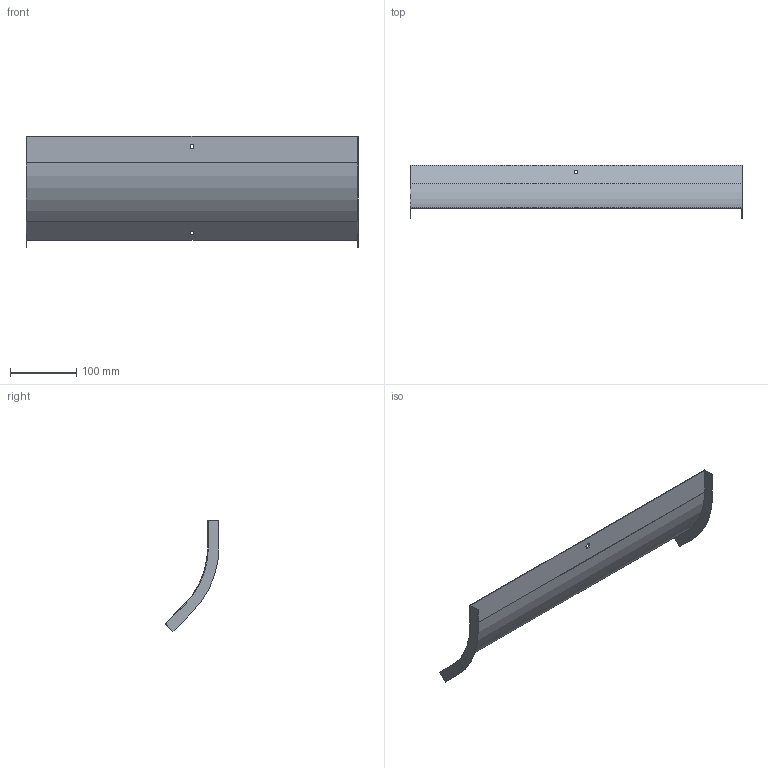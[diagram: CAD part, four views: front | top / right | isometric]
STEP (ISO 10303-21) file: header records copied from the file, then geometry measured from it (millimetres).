
FILE_DESCRIPTION (( 'STEP AP214' ), '1' );
FILE_NAME ('OS4_500.step', '2025-07-16T09:16:53', ( '' ), ( '' ), 'SwSTEP 2.0', 'SolidWorks 2023', '' );
FILE_SCHEMA (( 'AUTOMOTIVE_DESIGN' ));
Length unit declared in the file: millimetre
Products named in the file (1): OS4_500
Bounding box: 502 x 81.6 x 167.99 mm (x, y, z)
Volume: 95065.3 mm3; surface area: 191631.2 mm2
Topology: 1 solids, 1 shells, 26 faces, 72 edges, 48 vertices
Faces by surface type: plane 22, cylinder 4
Entity records: 855 total; most frequent: CARTESIAN_POINT 147, ORIENTED_EDGE 144, DIRECTION 134, EDGE_CURVE 72, LINE 64, VECTOR 64, VERTEX_POINT 48, AXIS2_PLACEMENT_3D 35
